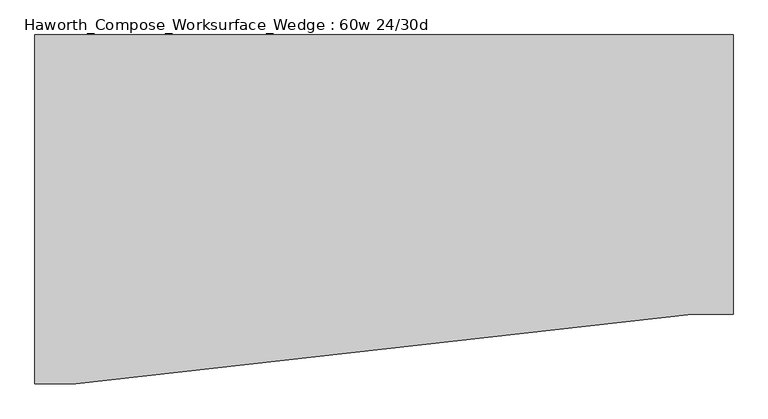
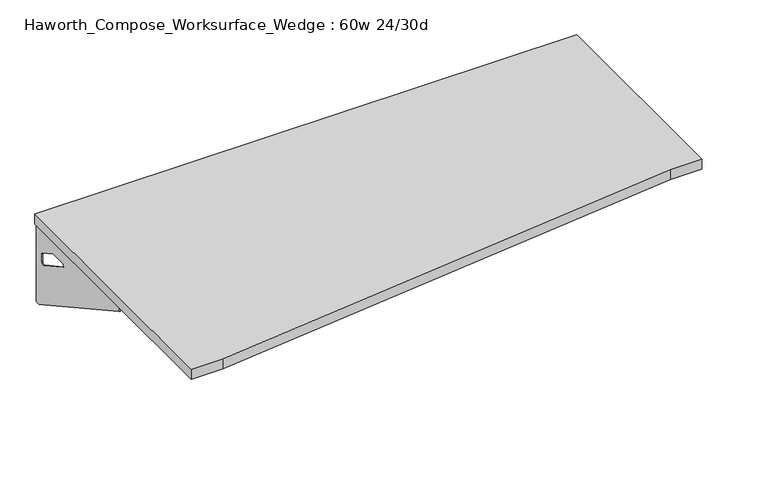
"""IFC4 building model written with IfcOpenShell, lengths in millimetres: furniture geometry, Haworth_Compose_Worksurface_Wedge : 60w 24/30d."""

import ifcopenshell
import ifcopenshell.guid

model = None  # the IFC model being written
_history = None  # IfcOwnerHistory: only IFC2X3 demands one
_inside = {}  # id of a spatial element -> (the spatial element, [elements in it])
_under = {}  # id of a project, library or spatial element -> (it, [spatial elements below it])
_declared = {}  # id of a project -> (the project, [libraries it declares])
_typed = {}  # id of a type object -> (the type object, [elements of that type])
_made_of = {}  # id of a material, layer set ... -> (it, [elements and type objects made of it])


def new_model(schema):
    """Start an empty IFC model of exactly this schema.

    Asked for "IFC4X3", IfcOpenShell would pick the latest addendum, in which some entities
    have other attributes; the version numbers below select the first issue.
    IFC2X3 requires an IfcOwnerHistory on every rooted entity: one is made here for all.
    """
    global model, _history
    if schema == "IFC4X3":
        model = ifcopenshell.file(schema_version=(4, 3, 0, 0))
    else:
        model = ifcopenshell.file(schema=schema)
    _inside.clear()
    _under.clear()
    _declared.clear()
    _typed.clear()
    _made_of.clear()
    _history = None
    if model.schema == "IFC2X3":
        org = make("IfcOrganization", Name="unknown")
        user = make(
            "IfcPersonAndOrganization",
            ThePerson=make("IfcPerson", FamilyName="unknown"),
            TheOrganization=org,
        )
        app = make(
            "IfcApplication",
            ApplicationDeveloper=org,
            Version="unknown",
            ApplicationFullName="unknown",
            ApplicationIdentifier="unknown",
        )
        _history = make(
            "IfcOwnerHistory",
            OwningUser=user,
            OwningApplication=app,
            ChangeAction="ADDED",
            CreationDate=0,
        )
    return model


def make(cls, **values):
    """One entity of the class cls with the attributes given. An attribute that is None is left unset."""
    return model.create_entity(
        cls, **{name: value for name, value in values.items() if value is not None}
    )


def rooted(cls, **values):
    """An entity with a GlobalId (a new one), such as an element, a storey or a relation."""
    return make(cls, GlobalId=ifcopenshell.guid.new(), OwnerHistory=_history, **values)


def si_unit(unit_type, name, prefix=None):
    """IfcSIUnit, for example si_unit("LENGTHUNIT", "METRE", prefix="MILLI")."""
    return make("IfcSIUnit", UnitType=unit_type, Prefix=prefix, Name=name)


def assignment(units):
    """IfcUnitAssignment: the units of a project."""
    return None if units is None else make("IfcUnitAssignment", Units=units)


def point(xyz):
    """IfcCartesianPoint."""
    return None if xyz is None else make("IfcCartesianPoint", Coordinates=xyz)


def direction(xyz):
    """IfcDirection."""
    return None if xyz is None else make("IfcDirection", DirectionRatios=xyz)


def frame(location, z_axis=None, x_axis=None):
    """IfcAxis2Placement3D, a coordinate frame: its origin and axes. An axis left out is left unset."""
    return make(
        "IfcAxis2Placement3D",
        Location=point(location),
        Axis=direction(z_axis),
        RefDirection=direction(x_axis),
    )


def origin():
    """The frame at (0, 0, 0) with its axes left unset."""
    return frame((0.0, 0.0, 0.0))


def place(relative_to, where):
    """IfcLocalPlacement: puts the frame where relative to a parent placement (None: the world)."""
    return make(
        "IfcLocalPlacement", PlacementRelTo=relative_to, RelativePlacement=where
    )


def context(
    kind, dimensions, precision=None, world=None, true_north=None, identifier=None
):
    """IfcGeometricRepresentationContext, for example the 3D "Model" context."""
    return make(
        "IfcGeometricRepresentationContext",
        ContextIdentifier=identifier,
        ContextType=kind,
        CoordinateSpaceDimension=dimensions,
        Precision=precision,
        WorldCoordinateSystem=world,
        TrueNorth=true_north,
    )


def project(units=None, contexts=None):
    """IfcProject with its units and contexts."""
    return rooted(
        "IfcProject",
        Name="project",
        RepresentationContexts=contexts,
        UnitsInContext=assignment(units),
    )


def spatial(cls, under=None, at=None, **own):
    """A site, building, storey or space (cls), placed at a placement, below another one or the project."""
    s = rooted(cls, ObjectPlacement=at, **own)
    if under is not None:
        _under.setdefault(under.id(), (under, []))[1].append(s)
    return s


def polyline(points):
    """IfcPolyline through the points."""
    return make("IfcPolyline", Points=[point(p) for p in points])


def circle_curve(where, radius):
    """IfcCircle in the frame where."""
    return make("IfcCircle", Position=where, Radius=radius)


def outline(outer, holes=None, kind="AREA"):
    """IfcArbitraryClosedProfileDef: a profile drawn as a closed curve; with holes, ...WithVoids."""
    if holes is None:
        return make("IfcArbitraryClosedProfileDef", ProfileType=kind, OuterCurve=outer)
    return make(
        "IfcArbitraryProfileDefWithVoids",
        ProfileType=kind,
        OuterCurve=outer,
        InnerCurves=holes,
    )


def extrude(swept, where, along, depth):
    """IfcExtrudedAreaSolid: the profile swept, set in the frame where, extruded along a direction by depth."""
    return make(
        "IfcExtrudedAreaSolid",
        SweptArea=swept,
        Position=where,
        ExtrudedDirection=direction(along),
        Depth=depth,
    )


def shape(context_of_items, identifier, shape_type, items):
    """IfcShapeRepresentation: the items that make up one representation, for example the "Body"."""
    return make(
        "IfcShapeRepresentation",
        ContextOfItems=context_of_items,
        RepresentationIdentifier=identifier,
        RepresentationType=shape_type,
        Items=items,
    )


def source(mapping_origin, context_of_items, identifier, shape_type, items):
    """IfcRepresentationMap: a shape defined once, which mapped items show again and again."""
    return make(
        "IfcRepresentationMap",
        MappingOrigin=mapping_origin,
        MappedRepresentation=shape(context_of_items, identifier, shape_type, items),
    )


def transform(
    local_origin,
    x_axis=None,
    y_axis=None,
    z_axis=None,
    scale=None,
    scale2=None,
    scale3=None,
    uniform=True,
):
    """IfcCartesianTransformationOperator3D, or its non-uniform kind. x_axis, y_axis, z_axis: its Axis1, 2, 3."""
    if uniform:
        return make(
            "IfcCartesianTransformationOperator3D",
            Axis1=direction(x_axis),
            Axis2=direction(y_axis),
            LocalOrigin=point(local_origin),
            Scale=scale,
            Axis3=direction(z_axis),
        )
    return make(
        "IfcCartesianTransformationOperator3DnonUniform",
        Axis1=direction(x_axis),
        Axis2=direction(y_axis),
        LocalOrigin=point(local_origin),
        Scale=scale,
        Axis3=direction(z_axis),
        Scale2=scale2,
        Scale3=scale3,
    )


def mapped(mapping_source, mapping_target):
    """IfcMappedItem: shows the shape of a source again, moved by a transform."""
    return make(
        "IfcMappedItem", MappingSource=mapping_source, MappingTarget=mapping_target
    )


def made_of(thing, what):
    """Note that an element or type object is made of a material, layer set ...; save() writes the relation."""
    if what is not None:
        _made_of.setdefault(what.id(), (what, []))[1].append(thing)
    return thing


def element(
    cls,
    number,
    at=None,
    inside=None,
    cuts=None,
    type_object=None,
    material=None,
    context=None,
    identifier="Body",
    shape_type=None,
    held_by="IfcProductDefinitionShape",
    body=None,
    shapes=None,
    **own,
):
    """One element of the class cls, such as IfcWall. Its Tag is "e" and its number.

    at: its placement. inside: the storey or other place that contains it. cuts: it is an
    opening in that element (IfcRelVoidsElement). A single representation is given by context,
    identifier, shape_type and body (its items); several are given by shapes. held_by: the class
    of the entity that holds the representations. save() writes the other relations.
    """
    e = rooted(cls, Tag="e%d" % number, ObjectPlacement=at, **own)
    if body is not None:
        shapes = [shape(context, identifier, shape_type, body)]
    if shapes is not None:
        e.Representation = make(held_by, Representations=shapes)
    if inside is not None:
        _inside.setdefault(inside.id(), (inside, []))[1].append(e)
    if cuts is not None:
        rooted(
            "IfcRelVoidsElement", RelatingBuildingElement=cuts, RelatedOpeningElement=e
        )
    if type_object is not None:
        _typed.setdefault(type_object.id(), (type_object, []))[1].append(e)
    return made_of(e, material)


def aggregate(whole, parts):
    """IfcRelAggregates: a whole, such as a stair, and the parts it consists of."""
    return rooted("IfcRelAggregates", RelatingObject=whole, RelatedObjects=parts)


def save(model, path):
    """Write the relations noted so far, then the file.

    IfcRelAggregates (storeys below a building ...), IfcRelContainedInSpatialStructure (elements
    in a storey), IfcRelDefinesByType, IfcRelAssociatesMaterial and IfcRelDeclares: one each for
    every whole, place, type object, material and project.
    """
    for whole, parts in _under.values():
        aggregate(whole, parts)
    for where, things in _inside.values():
        rooted(
            "IfcRelContainedInSpatialStructure",
            RelatedElements=things,
            RelatingStructure=where,
        )
    for kind, things in _typed.values():
        rooted("IfcRelDefinesByType", RelatedObjects=things, RelatingType=kind)
    for what, things in _made_of.values():
        rooted("IfcRelAssociatesMaterial", RelatedObjects=things, RelatingMaterial=what)
    for by, libraries in _declared.values():
        rooted("IfcRelDeclares", RelatingContext=by, RelatedDefinitions=libraries)
    model.write(path)


def plane_surface(at):
    """IfcPlane: the flat surface through the origin of the frame at, square to its z axis."""
    return make("IfcPlane", Position=at)


def revolved_surface(curve, axis_point, axis_direction):
    """IfcSurfaceOfRevolution: the curve turned about the line through axis_point along axis_direction."""
    return make(
        "IfcSurfaceOfRevolution",
        SweptCurve=make("IfcArbitraryOpenProfileDef", ProfileType="CURVE", Curve=curve),
        AxisPosition=make("IfcAxis1Placement", Location=point(axis_point), Axis=direction(axis_direction)),
    )


def advanced_brep(points, edges, surfaces, faces):
    """IfcAdvancedBrep: a solid bounded by faces that lie on surfaces and meet in shared edges.

    An edge is (start, end): straight between two places in points (the first is 0);
    or (start, end, curve); or (start, end, curve, False) where it runs against its curve.
    A face is (place in surfaces, loops), or (place, loops, False) where it looks against
    its surface's normal. A loop lists edges by number (the first is 1), with a minus sign
    where the edge is run from its end to its start. The first loop is the outer one.
    """
    corners = [point(p) for p in points]
    vertices = [make("IfcVertexPoint", VertexGeometry=c) for c in corners]
    made = []
    for start, end, *more in edges:
        made.append(
            make(
                "IfcEdgeCurve",
                EdgeStart=vertices[start],
                EdgeEnd=vertices[end],
                EdgeGeometry=more[0] if more else make("IfcPolyline", Points=[corners[start], corners[end]]),
                SameSense=more[1] if len(more) > 1 else True,
            )
        )
    hull = []
    for where, loops, *sense in faces:
        bounds = []
        for j, loop in enumerate(loops):
            ring = [make("IfcOrientedEdge", EdgeElement=made[abs(k) - 1], Orientation=k > 0) for k in loop]
            bounds.append(
                make(
                    "IfcFaceOuterBound" if j == 0 else "IfcFaceBound",
                    Bound=make("IfcEdgeLoop", EdgeList=ring),
                    Orientation=True,
                )
            )
        hull.append(make("IfcAdvancedFace", Bounds=bounds, FaceSurface=surfaces[where], SameSense=sense[0] if sense else True))
    return make("IfcAdvancedBrep", Outer=make("IfcClosedShell", CfsFaces=hull))


def haworth_compose_worksurface_wedge_60w_24_30d_6eb2c6d6(model_context):
    return source(origin(), model_context, "Body", "SolidModel", [
        advanced_brep(
        [(756.44375, 381.0, 475.45625), (756.44375, 365.125, 475.45625), (756.44375, -25.4, 691.7192568), (756.44375, -25.4, 704.05625), (756.44375, 365.125, 704.05625), (756.44375, 381.0, 704.05625), (756.44375, 297.690072, 665.95625), (756.44375, 254.0355284, 665.95625), (756.44375, 251.3564235, 656.3705539), (756.44375, 343.0776173, 605.5776439), (756.44375, 352.425, 611.1756969), (756.44375, 352.425, 634.6860246), (756.44375, 350.6730055, 637.5242776), (756.44375, 300.7663437, 665.1613425), (758.825, 381.0, 475.45625), (758.825, 381.0, 704.05625), (758.825, 365.125, 704.05625), (758.825, 365.125, 706.4375), (758.825, -25.4, 706.4375), (758.825, -25.4, 691.7192568), (758.825, 365.125, 475.45625), (758.825, 297.690072, 665.95625), (758.825, 300.7663437, 665.1613425), (758.825, 350.6730055, 637.5242776), (758.825, 352.425, 634.6860246), (758.825, 352.425, 611.1756969), (758.825, 343.0776173, 605.5776439), (758.825, 251.3564235, 656.3705539), (758.825, 254.0355284, 665.95625), (717.55, -25.4, 706.4375), (717.55, -25.4, 704.05625), (717.55, 365.125, 704.05625), (717.55, 365.125, 706.4375)],
        [
            (0, 1),
            (1, 2),
            (2, 3),
            (3, 4),
            (4, 5),
            (5, 0),
            (6, 7),
            (7, 8, circle_curve(frame((756.44375, 254.0355284, 660.7890106), z_axis=(1.0, 0.0, 0.0), x_axis=(0.0, -1.0, 0.0)), 5.1672394)),
            (8, 9),
            (9, 10, circle_curve(frame((756.44375, 346.075, 611.1756969), z_axis=(1.0, 0.0, 0.0), x_axis=(0.0, -1.0, 0.0)), 6.35)),
            (10, 11),
            (11, 12, circle_curve(frame((756.44375, 349.25, 634.6860246), z_axis=(1.0, 0.0, 0.0), x_axis=(0.0, -1.0, 0.0)), 3.175)),
            (12, 13),
            (13, 6, circle_curve(frame((756.44375, 297.690072, 659.60625), z_axis=(1.0, 0.0, 0.0), x_axis=(0.0, -1.0, 0.0)), 6.35)),
            (14, 15),
            (15, 16),
            (16, 17),
            (17, 18),
            (18, 19),
            (19, 20),
            (20, 14),
            (21, 22, circle_curve(frame((758.825, 297.690072, 659.60625), z_axis=(-1.0, 0.0, 0.0), x_axis=(0.0, -1.0, 0.0)), 6.35)),
            (22, 23),
            (23, 24, circle_curve(frame((758.825, 349.25, 634.6860246), z_axis=(-1.0, 0.0, 0.0), x_axis=(0.0, -1.0, 0.0)), 3.175)),
            (24, 25),
            (25, 26, circle_curve(frame((758.825, 346.075, 611.1756969), z_axis=(-1.0, 0.0, 0.0), x_axis=(0.0, -1.0, 0.0)), 6.35)),
            (26, 27),
            (27, 28, circle_curve(frame((758.825, 254.0355284, 660.7890106), z_axis=(-1.0, 0.0, 0.0), x_axis=(0.0, -1.0, 0.0)), 5.1672394)),
            (28, 21),
            (4, 16),
            (15, 5),
            (14, 0),
            (20, 1),
            (19, 2),
            (18, 29),
            (29, 30),
            (30, 3),
            (6, 21),
            (28, 7),
            (9, 26),
            (25, 10),
            (24, 11),
            (23, 12),
            (27, 8),
            (31, 4),
            (30, 31),
            (32, 29),
            (17, 32),
            (31, 32),
            (22, 13),
        ],
        [
            plane_surface(frame((756.44375, 381.0, 475.45625), z_axis=(-1.0, 0.0, 0.0), x_axis=(0.0, 1.0, 0.0))),
            plane_surface(frame((758.825, 381.0, 475.45625), z_axis=(1.0, 0.0, 0.0), x_axis=(0.0, -1.0, 0.0))),
            plane_surface(frame((758.825, -25.4, 704.05625), z_axis=(0.0, 0.0, 1.0), x_axis=(-1.0, 0.0, 0.0))),
            plane_surface(frame((758.825, 381.0, 704.05625), z_axis=(0.0, 1.0, 0.0), x_axis=(-1.0, 0.0, 0.0))),
            plane_surface(frame((758.825, 381.0, 475.45625), z_axis=(0.0, 0.0, -1.0), x_axis=(-1.0, 0.0, 0.0))),
            plane_surface(frame((758.825, 365.125, 475.45625), z_axis=(0.0, -0.48445223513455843, -0.8748177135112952), x_axis=(-1.0, 0.0, 0.0))),
            plane_surface(frame((758.825, -25.4, 691.7192568), z_axis=(0.0, -1.0, 0.0), x_axis=(-1.0, 0.0, 0.0))),
            plane_surface(frame((758.825, 297.690072, 665.95625), z_axis=(0.0, 0.0, -1.0), x_axis=(-1.0, 0.0, 0.0))),
            revolved_surface(polyline([(756.44375, 339.72499999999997, 611.1756969), (758.825, 339.72499999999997, 611.1756969)]), (758.825, 346.075, 611.1756969), (-1.0, 0.0, 0.0)),
            plane_surface(frame((758.825, 352.425, 611.1756969), z_axis=(0.0, -1.0, 0.0), x_axis=(-1.0, 0.0, 0.0))),
            revolved_surface(polyline([(756.44375, 346.075, 634.6860246), (758.825, 346.075, 634.6860246)]), (758.825, 349.25, 634.6860246), (-1.0, 0.0, 0.0)),
            revolved_surface(polyline([(756.44375, 248.868289, 660.7890106), (758.825, 248.868289, 660.7890106)]), (758.825, 254.0355284, 660.7890106), (-1.0, 0.0, 0.0)),
            plane_surface(frame((758.825, 365.125, 704.05625), z_axis=(0.0, 0.0, -1.0), x_axis=(-1.0, 0.0, 0.0))),
            plane_surface(frame((758.825, 365.125, 706.4375), z_axis=(0.0, 0.0, 1.0), x_axis=(1.0, 0.0, 0.0))),
            plane_surface(frame((717.55, 365.125, 706.4375), z_axis=(0.0, 1.0, 0.0), x_axis=(0.0, 0.0, -1.0))),
            plane_surface(frame((717.55, -25.4, 706.4375), z_axis=(-1.0, 0.0, 0.0), x_axis=(0.0, 0.0, -1.0))),
            plane_surface(frame((758.825, 251.3564235, 656.3705539), z_axis=(0.0, 0.4844522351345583, 0.8748177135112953), x_axis=(-1.0, 0.0, 0.0))),
            plane_surface(frame((758.825, 350.6730055, 637.5242776), z_axis=(0.0, -0.4844522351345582, -0.8748177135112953), x_axis=(-1.0, 0.0, 0.0))),
            revolved_surface(polyline([(756.44375, 291.34007199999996, 659.60625), (758.825, 291.34007199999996, 659.60625)]), (758.825, 297.690072, 659.60625), (-1.0, 0.0, 0.0)),
        ],
        [
            (0, [[1, 2, 3, 4, 5, 6], [7, 8, 9, 10, 11, 12, 13, 14]]),
            (1, [[15, 16, 17, 18, 19, 20, 21], [22, 23, 24, 25, 26, 27, 28, 29]]),
            (2, [[-5, 30, -16, 31]]),
            (3, [[-31, -15, 32, -6]]),
            (4, [[-32, -21, 33, -1]]),
            (5, [[-33, -20, 34, -2]]),
            (6, [[-34, -19, 35, 36, 37, -3]]),
            (7, [[38, -29, 39, -7]]),
            (8, [[40, -26, 41, -10]]),
            (9, [[-41, -25, 42, -11]]),
            (10, [[-42, -24, 43, -12]]),
            (11, [[-39, -28, 44, -8]]),
            (12, [[45, -4, -37, 46]]),
            (13, [[47, -35, -18, 48]]),
            (14, [[-17, -30, -45, 49, -48]]),
            (15, [[-36, -47, -49, -46]]),
            (16, [[-44, -27, -40, -9]]),
            (17, [[-43, -23, 50, -13]]),
            (18, [[-50, -22, -38, -14]]),
        ],
    ),
        advanced_brep(
        [(-756.44375, 381.0, 475.45625), (-756.44375, 381.0, 704.05625), (-756.44375, 365.125, 704.05625), (-756.44375, -25.4, 704.05625), (-756.44375, -25.4, 691.7192568), (-756.44375, 365.125, 475.45625), (-756.44375, 297.690072, 665.95625), (-756.44375, 300.7663437, 665.1613425), (-756.44375, 350.6730055, 637.5242776), (-756.44375, 352.425, 634.6860246), (-756.44375, 352.425, 611.1756969), (-756.44375, 343.0776173, 605.5776439), (-756.44375, 251.3564235, 656.3705539), (-756.44375, 254.0355284, 665.95625), (-758.825, 381.0, 475.45625), (-758.825, 365.125, 475.45625), (-758.825, -25.4, 691.7192568), (-758.825, -25.4, 706.4375), (-758.825, 365.125, 706.4375), (-758.825, 365.125, 704.05625), (-758.825, 381.0, 704.05625), (-758.825, 297.690072, 665.95625), (-758.825, 254.0355284, 665.95625), (-758.825, 251.3564235, 656.3705539), (-758.825, 343.0776173, 605.5776439), (-758.825, 352.425, 611.1756969), (-758.825, 352.425, 634.6860246), (-758.825, 350.6730055, 637.5242776), (-758.825, 300.7663437, 665.1613425), (-717.55, -25.4, 704.05625), (-717.55, -25.4, 706.4375), (-717.55, 365.125, 704.05625), (-717.55, 365.125, 706.4375)],
        [
            (0, 1),
            (1, 2),
            (2, 3),
            (3, 4),
            (4, 5),
            (5, 0),
            (6, 7, circle_curve(frame((-756.44375, 297.690072, 659.60625), z_axis=(-1.0, 0.0, 0.0), x_axis=(0.0, -1.0, 0.0)), 6.35)),
            (7, 8),
            (8, 9, circle_curve(frame((-756.44375, 349.25, 634.6860246), z_axis=(-1.0, 0.0, 0.0), x_axis=(0.0, -1.0, 0.0)), 3.175)),
            (9, 10),
            (10, 11, circle_curve(frame((-756.44375, 346.075, 611.1756969), z_axis=(-1.0, 0.0, 0.0), x_axis=(0.0, -1.0, 0.0)), 6.35)),
            (11, 12),
            (12, 13, circle_curve(frame((-756.44375, 254.0355284, 660.7890106), z_axis=(-1.0, 0.0, 0.0), x_axis=(0.0, -1.0, 0.0)), 5.1672394)),
            (13, 6),
            (14, 15),
            (15, 16),
            (16, 17),
            (17, 18),
            (18, 19),
            (19, 20),
            (20, 14),
            (21, 22),
            (22, 23, circle_curve(frame((-758.825, 254.0355284, 660.7890106), z_axis=(1.0, 0.0, 0.0), x_axis=(0.0, -1.0, 0.0)), 5.1672394)),
            (23, 24),
            (24, 25, circle_curve(frame((-758.825, 346.075, 611.1756969), z_axis=(1.0, 0.0, 0.0), x_axis=(0.0, -1.0, 0.0)), 6.35)),
            (25, 26),
            (26, 27, circle_curve(frame((-758.825, 349.25, 634.6860246), z_axis=(1.0, 0.0, 0.0), x_axis=(0.0, -1.0, 0.0)), 3.175)),
            (27, 28),
            (28, 21, circle_curve(frame((-758.825, 297.690072, 659.60625), z_axis=(1.0, 0.0, 0.0), x_axis=(0.0, -1.0, 0.0)), 6.35)),
            (1, 20),
            (19, 2),
            (0, 14),
            (5, 15),
            (4, 16),
            (3, 29),
            (29, 30),
            (30, 17),
            (13, 22),
            (21, 6),
            (10, 25),
            (24, 11),
            (9, 26),
            (8, 27),
            (12, 23),
            (31, 29),
            (2, 31),
            (32, 18),
            (30, 32),
            (32, 31),
            (7, 28),
        ],
        [
            plane_surface(frame((-756.44375, 381.0, 475.45625), z_axis=(1.0, 0.0, 0.0), x_axis=(0.0, 1.0, 0.0))),
            plane_surface(frame((-758.825, 381.0, 475.45625), z_axis=(-1.0, 0.0, 0.0), x_axis=(0.0, -1.0, 0.0))),
            plane_surface(frame((-758.825, -25.4, 704.05625), z_axis=(0.0, 0.0, 1.0), x_axis=(1.0, 0.0, 0.0))),
            plane_surface(frame((-758.825, 381.0, 704.05625), z_axis=(0.0, 1.0, 0.0), x_axis=(1.0, 0.0, 0.0))),
            plane_surface(frame((-758.825, 381.0, 475.45625), z_axis=(0.0, 0.0, -1.0), x_axis=(1.0, 0.0, 0.0))),
            plane_surface(frame((-758.825, 365.125, 475.45625), z_axis=(0.0, -0.48445223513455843, -0.8748177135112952), x_axis=(1.0, 0.0, 0.0))),
            plane_surface(frame((-758.825, -25.4, 691.7192568), z_axis=(0.0, -1.0, 0.0), x_axis=(1.0, 0.0, 0.0))),
            plane_surface(frame((-758.825, 297.690072, 665.95625), z_axis=(0.0, 0.0, -1.0), x_axis=(1.0, 0.0, 0.0))),
            revolved_surface(polyline([(-756.44375, 339.72499999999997, 611.1756969), (-758.825, 339.72499999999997, 611.1756969)]), (-758.825, 346.075, 611.1756969), (1.0, 0.0, 0.0)),
            plane_surface(frame((-758.825, 352.425, 611.1756969), z_axis=(0.0, -1.0, 0.0), x_axis=(1.0, 0.0, 0.0))),
            revolved_surface(polyline([(-756.44375, 346.075, 634.6860246), (-758.825, 346.075, 634.6860246)]), (-758.825, 349.25, 634.6860246), (1.0, 0.0, 0.0)),
            revolved_surface(polyline([(-756.44375, 248.868289, 660.7890106), (-758.825, 248.868289, 660.7890106)]), (-758.825, 254.0355284, 660.7890106), (1.0, 0.0, 0.0)),
            plane_surface(frame((-758.825, 365.125, 704.05625), z_axis=(0.0, 0.0, -1.0), x_axis=(1.0, 0.0, 0.0))),
            plane_surface(frame((-758.825, 365.125, 706.4375), z_axis=(0.0, 0.0, 1.0), x_axis=(-1.0, 0.0, 0.0))),
            plane_surface(frame((-717.55, 365.125, 706.4375), z_axis=(0.0, 1.0, 0.0), x_axis=(0.0, 0.0, -1.0))),
            plane_surface(frame((-717.55, -25.4, 706.4375), z_axis=(1.0, 0.0, 0.0), x_axis=(0.0, 0.0, -1.0))),
            plane_surface(frame((-758.825, 251.3564235, 656.3705539), z_axis=(0.0, 0.4844522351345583, 0.8748177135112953), x_axis=(1.0, 0.0, 0.0))),
            plane_surface(frame((-758.825, 350.6730055, 637.5242776), z_axis=(0.0, -0.4844522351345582, -0.8748177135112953), x_axis=(1.0, 0.0, 0.0))),
            revolved_surface(polyline([(-756.44375, 291.34007199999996, 659.60625), (-758.825, 291.34007199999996, 659.60625)]), (-758.825, 297.690072, 659.60625), (1.0, 0.0, 0.0)),
        ],
        [
            (0, [[1, 2, 3, 4, 5, 6], [7, 8, 9, 10, 11, 12, 13, 14]]),
            (1, [[15, 16, 17, 18, 19, 20, 21], [22, 23, 24, 25, 26, 27, 28, 29]]),
            (2, [[30, -20, 31, -2]]),
            (3, [[-1, 32, -21, -30]]),
            (4, [[-6, 33, -15, -32]]),
            (5, [[-5, 34, -16, -33]]),
            (6, [[-4, 35, 36, 37, -17, -34]]),
            (7, [[-14, 38, -22, 39]]),
            (8, [[-11, 40, -25, 41]]),
            (9, [[-10, 42, -26, -40]]),
            (10, [[-9, 43, -27, -42]]),
            (11, [[-13, 44, -23, -38]]),
            (12, [[45, -35, -3, 46]]),
            (13, [[47, -18, -37, 48]]),
            (14, [[-47, 49, -46, -31, -19]]),
            (15, [[-45, -49, -48, -36]]),
            (16, [[-12, -41, -24, -44]]),
            (17, [[-8, 50, -28, -43]]),
            (18, [[-7, -39, -29, -50]]),
        ],
    ),
        extrude(outline(polyline([(762.0, 381.0), (762.0, -228.6), (673.1, -228.6), (-673.1, -381.0), (-762.0, -381.0), (-762.0, 381.0), (762.0, 381.0)])), frame((0.0, 0.0, 706.4375), z_axis=(0.0, 0.0, 1.0), x_axis=(1.0, 0.0, 0.0)), (0.0, 0.0, 1.0), 30.1625),
    ])


if __name__ == "__main__":
    model = new_model("IFC4")
    model_context = context("Model", 3, world=origin())
    ifc_project = project(units=[si_unit("LENGTHUNIT", "METRE", prefix="MILLI")], contexts=[model_context])
    site = spatial("IfcSite", under=ifc_project)
    building = spatial("IfcBuilding", under=site)
    placement = place(None, origin())
    haworth_compose_worksurface_wedge_60w_24_30d_shape = haworth_compose_worksurface_wedge_60w_24_30d_6eb2c6d6(model_context)
    element("IfcFurniture", 1, ObjectType="Haworth_Compose_Worksurface_Wedge : 60w 24/30d", at=placement, inside=building, context=model_context, shape_type="MappedRepresentation", body=[
        mapped(haworth_compose_worksurface_wedge_60w_24_30d_shape, transform((0.0, 0.0, 0.0), x_axis=(1.0, 0.0, 0.0), y_axis=(0.0, 1.0, 0.0), z_axis=(0.0, 0.0, 1.0))),
    ])
    save(model, "model.ifc")
